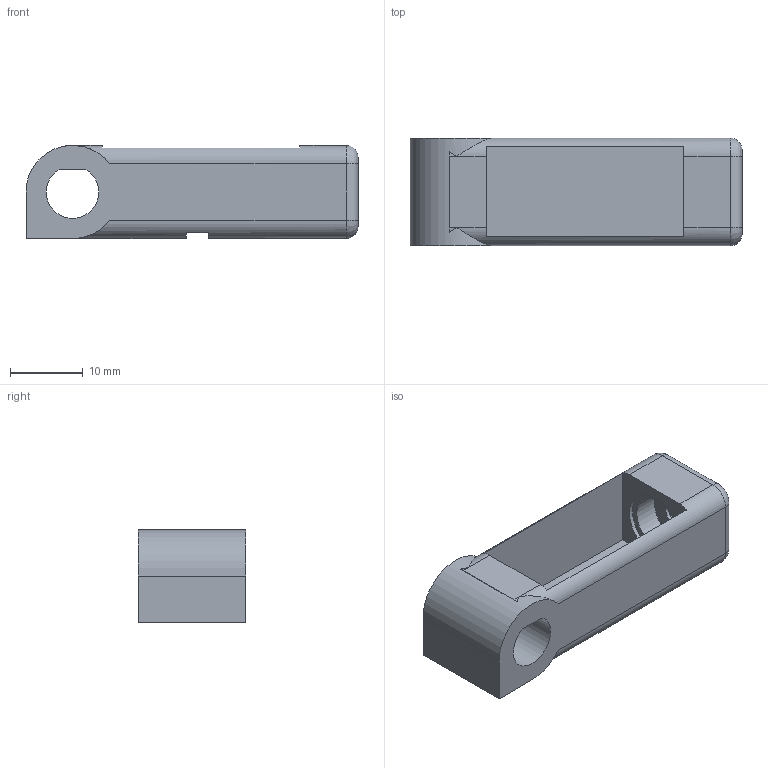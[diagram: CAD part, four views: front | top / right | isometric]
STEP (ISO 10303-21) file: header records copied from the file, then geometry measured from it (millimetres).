
FILE_DESCRIPTION(('Open CASCADE Model'),'2;1');
FILE_NAME('Open CASCADE Shape Model','2026-11-03T00:01:11',('Author'),( 'Open CASCADE'),'Open CASCADE STEP processor 8.0','build123d', 'Unknown');
FILE_SCHEMA(('AUTOMOTIVE_DESIGN { 1 0 10303 214 1 1 1 1 }'));
Length unit declared in the file: millimetre
Products named in the file (1): COMPOUND
Bounding box: 45.67 x 14.8 x 12.8 mm (x, y, z)
Volume: 3366.2 mm3; surface area: 3990.3 mm2
Topology: 1 solids, 1 shells, 43 faces, 104 edges, 66 vertices
Faces by surface type: plane 21, cylinder 18, revolution 4
Full cylindrical faces by diameter (mm): 3.8 x1, 8.15 x2, 9.8 x1
Entity records: 3013 total; most frequent: CARTESIAN_POINT 981, DIRECTION 357, ORIENTED_EDGE 208, PCURVE 208, DEFINITIONAL_REPRESENTATION 208, LINE 181, VECTOR 181, EDGE_CURVE 104
